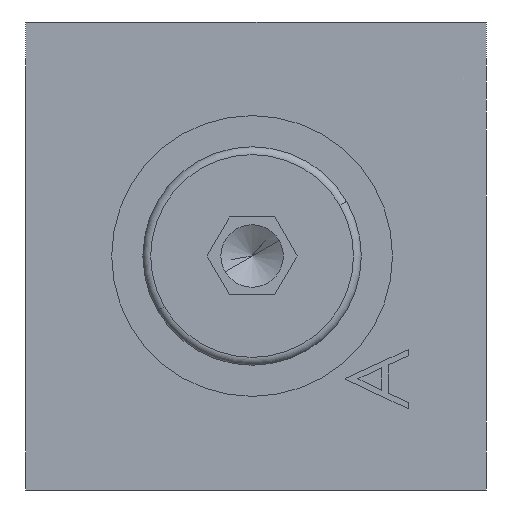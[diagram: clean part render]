
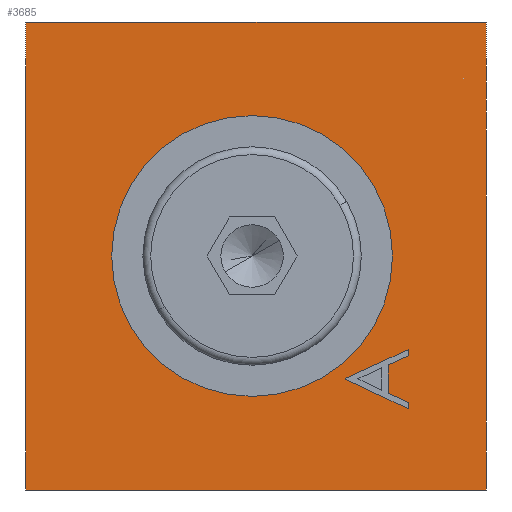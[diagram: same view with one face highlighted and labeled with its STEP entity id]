
A CAD part, left-side view. The second image highlights one B-rep face of the part: STEP entity #3685.
In plain terms, the highlighted planar face has unit normal (-1, 0, 0).
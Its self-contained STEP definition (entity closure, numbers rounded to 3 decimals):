
#46 = VERTEX_POINT ( 'NONE', #437 ) ;
#53 = EDGE_CURVE ( 'NONE', #5109, #1544, #978, .T. ) ;
#206 = DIRECTION ( 'NONE',  ( -1., 0., 0. ) ) ;
#244 = CARTESIAN_POINT ( 'NONE',  ( 0., -5.75, -7.897 ) ) ;
#283 = DIRECTION ( 'NONE',  ( 0., 0., 1. ) ) ;
#369 = VERTEX_POINT ( 'NONE', #1840 ) ;
#385 = ORIENTED_EDGE ( 'NONE', *, *, #2548, .T. ) ;
#414 = ORIENTED_EDGE ( 'NONE', *, *, #2694, .F. ) ;
#437 = CARTESIAN_POINT ( 'NONE',  ( 0., -9.75, -6. ) ) ;
#444 = LINE ( 'NONE', #3615, #4010 ) ;
#480 = ORIENTED_EDGE ( 'NONE', *, *, #3254, .T. ) ;
#563 = VERTEX_POINT ( 'NONE', #4926 ) ;
#611 = FACE_BOUND ( 'NONE', #3850, .T. ) ;
#666 = LINE ( 'NONE', #2069, #4230 ) ;
#673 = DIRECTION ( 'NONE',  ( 0., 0., -1. ) ) ;
#707 = ORIENTED_EDGE ( 'NONE', *, *, #53, .F. ) ;
#772 = ORIENTED_EDGE ( 'NONE', *, *, #2531, .T. ) ;
#836 = DIRECTION ( 'NONE',  ( 0., -1., 0. ) ) ;
#844 = CARTESIAN_POINT ( 'NONE',  ( 0., -8.468, -6.982 ) ) ;
#880 = DIRECTION ( 'NONE',  ( 0., 0.904, 0.429 ) ) ;
#893 = VECTOR ( 'NONE', #5390, 1000. ) ;
#978 = LINE ( 'NONE', #4894, #5817 ) ;
#990 = CARTESIAN_POINT ( 'NONE',  ( 0., 0.25, -9. ) ) ;
#1000 = DIRECTION ( 'NONE',  ( 0., 0., -1. ) ) ;
#1012 = CARTESIAN_POINT ( 'NONE',  ( 0., 0.25, 0. ) ) ;
#1028 = CIRCLE ( 'NONE', #1863, 9. ) ;
#1089 = CARTESIAN_POINT ( 'NONE',  ( 0., 0.25, 0. ) ) ;
#1157 = AXIS2_PLACEMENT_3D ( 'NONE', #1089, #206, #283 ) ;
#1174 = ORIENTED_EDGE ( 'NONE', *, *, #4949, .F. ) ;
#1223 = EDGE_CURVE ( 'NONE', #4386, #369, #1524, .T. ) ;
#1245 = VERTEX_POINT ( 'NONE', #4153 ) ;
#1325 = CARTESIAN_POINT ( 'NONE',  ( 0., -14.75, -15. ) ) ;
#1339 = VECTOR ( 'NONE', #4731, 1000. ) ;
#1379 = VECTOR ( 'NONE', #880, 1000. ) ;
#1490 = DIRECTION ( 'NONE',  ( 0., 0., 1. ) ) ;
#1505 = CARTESIAN_POINT ( 'NONE',  ( 0., 14.75, -15. ) ) ;
#1524 = LINE ( 'NONE', #4238, #1379 ) ;
#1544 = VERTEX_POINT ( 'NONE', #5868 ) ;
#1552 = CARTESIAN_POINT ( 'NONE',  ( 0., -9.75, -9.403 ) ) ;
#1614 = ORIENTED_EDGE ( 'NONE', *, *, #4039, .F. ) ;
#1798 = CARTESIAN_POINT ( 'NONE',  ( 0., -14.75, -15. ) ) ;
#1823 = ORIENTED_EDGE ( 'NONE', *, *, #5337, .T. ) ;
#1840 = CARTESIAN_POINT ( 'NONE',  ( 0., -5.75, -7.897 ) ) ;
#1863 = AXIS2_PLACEMENT_3D ( 'NONE', #1012, #4276, #1490 ) ;
#1879 = DIRECTION ( 'NONE',  ( 0., 0., 1. ) ) ;
#1916 = LINE ( 'NONE', #1798, #3032 ) ;
#1955 = PLANE ( 'NONE',  #5667 ) ;
#1975 = DIRECTION ( 'NONE',  ( 0., 0., 1. ) ) ;
#2069 = CARTESIAN_POINT ( 'NONE',  ( 0., -8.468, -6.982 ) ) ;
#2128 = CARTESIAN_POINT ( 'NONE',  ( 0., -9.75, -6. ) ) ;
#2169 = CARTESIAN_POINT ( 'NONE',  ( 0., -8.468, -8.795 ) ) ;
#2208 = LINE ( 'NONE', #4734, #3297 ) ;
#2258 = CARTESIAN_POINT ( 'NONE',  ( 0., -9.75, -9.795 ) ) ;
#2299 = VECTOR ( 'NONE', #4814, 1000. ) ;
#2531 = EDGE_CURVE ( 'NONE', #4613, #46, #2610, .T. ) ;
#2548 = EDGE_CURVE ( 'NONE', #3046, #3852, #2741, .T. ) ;
#2610 = LINE ( 'NONE', #3040, #1339 ) ;
#2624 = EDGE_CURVE ( 'NONE', #369, #4613, #2888, .T. ) ;
#2626 = DIRECTION ( 'NONE',  ( 0., -0.903, -0.429 ) ) ;
#2694 = EDGE_CURVE ( 'NONE', #3936, #4636, #5662, .T. ) ;
#2741 = LINE ( 'NONE', #4453, #4923 ) ;
#2864 = CARTESIAN_POINT ( 'NONE',  ( 0., -14.75, 15. ) ) ;
#2888 = LINE ( 'NONE', #244, #3532 ) ;
#2910 = DIRECTION ( 'NONE',  ( 0., 0., 1. ) ) ;
#2981 = CARTESIAN_POINT ( 'NONE',  ( 0., -9.75, -6.39 ) ) ;
#3032 = VECTOR ( 'NONE', #5550, 1000. ) ;
#3040 = CARTESIAN_POINT ( 'NONE',  ( 0., -5.75, -7.846 ) ) ;
#3046 = VERTEX_POINT ( 'NONE', #2981 ) ;
#3254 = EDGE_CURVE ( 'NONE', #1245, #4386, #4763, .T. ) ;
#3297 = VECTOR ( 'NONE', #1000, 1000. ) ;
#3532 = VECTOR ( 'NONE', #2910, 1000. ) ;
#3615 = CARTESIAN_POINT ( 'NONE',  ( 0., -14.75, 15. ) ) ;
#3651 = LINE ( 'NONE', #2169, #6010 ) ;
#3685 = ADVANCED_FACE ( 'NONE', ( #4174, #5434, #611 ), #1955, .T. ) ;
#3718 = EDGE_LOOP ( 'NONE', ( #414, #1614 ) ) ;
#3850 = EDGE_LOOP ( 'NONE', ( #4740, #5485, #772, #1823, #385, #5032, #4430, #480 ) ) ;
#3852 = VERTEX_POINT ( 'NONE', #844 ) ;
#3936 = VERTEX_POINT ( 'NONE', #5123 ) ;
#4010 = VECTOR ( 'NONE', #836, 1000. ) ;
#4039 = EDGE_CURVE ( 'NONE', #4636, #3936, #1028, .T. ) ;
#4153 = CARTESIAN_POINT ( 'NONE',  ( 0., -9.75, -9.403 ) ) ;
#4174 = FACE_OUTER_BOUND ( 'NONE', #4309, .T. ) ;
#4191 = EDGE_CURVE ( 'NONE', #3852, #563, #666, .T. ) ;
#4230 = VECTOR ( 'NONE', #673, 1000. ) ;
#4238 = CARTESIAN_POINT ( 'NONE',  ( 0., -9.75, -9.795 ) ) ;
#4276 = DIRECTION ( 'NONE',  ( -1., 0., 0. ) ) ;
#4309 = EDGE_LOOP ( 'NONE', ( #5690, #4906, #1174, #707 ) ) ;
#4386 = VERTEX_POINT ( 'NONE', #2258 ) ;
#4430 = ORIENTED_EDGE ( 'NONE', *, *, #4809, .T. ) ;
#4453 = CARTESIAN_POINT ( 'NONE',  ( 0., -9.75, -6.39 ) ) ;
#4583 = VERTEX_POINT ( 'NONE', #2864 ) ;
#4613 = VERTEX_POINT ( 'NONE', #5187 ) ;
#4617 = LINE ( 'NONE', #2128, #893 ) ;
#4636 = VERTEX_POINT ( 'NONE', #990 ) ;
#4731 = DIRECTION ( 'NONE',  ( 0., -0.908, 0.419 ) ) ;
#4734 = CARTESIAN_POINT ( 'NONE',  ( 0., -14.75, 15. ) ) ;
#4740 = ORIENTED_EDGE ( 'NONE', *, *, #1223, .T. ) ;
#4763 = LINE ( 'NONE', #1552, #2299 ) ;
#4769 = DIRECTION ( 'NONE',  ( -1., 0., 0. ) ) ;
#4809 = EDGE_CURVE ( 'NONE', #563, #1245, #3651, .T. ) ;
#4814 = DIRECTION ( 'NONE',  ( 0., 0., -1. ) ) ;
#4894 = CARTESIAN_POINT ( 'NONE',  ( 0., 14.75, 15. ) ) ;
#4906 = ORIENTED_EDGE ( 'NONE', *, *, #5615, .F. ) ;
#4923 = VECTOR ( 'NONE', #5382, 1000. ) ;
#4926 = CARTESIAN_POINT ( 'NONE',  ( 0., -8.468, -8.795 ) ) ;
#4949 = EDGE_CURVE ( 'NONE', #1544, #4583, #444, .T. ) ;
#5032 = ORIENTED_EDGE ( 'NONE', *, *, #4191, .T. ) ;
#5109 = VERTEX_POINT ( 'NONE', #5208 ) ;
#5123 = CARTESIAN_POINT ( 'NONE',  ( 0., 0.25, 9. ) ) ;
#5187 = CARTESIAN_POINT ( 'NONE',  ( 0., -5.75, -7.846 ) ) ;
#5208 = CARTESIAN_POINT ( 'NONE',  ( 0., 14.75, -15. ) ) ;
#5337 = EDGE_CURVE ( 'NONE', #46, #3046, #4617, .T. ) ;
#5382 = DIRECTION ( 'NONE',  ( 0., 0.908, -0.419 ) ) ;
#5390 = DIRECTION ( 'NONE',  ( 0., 0., -1. ) ) ;
#5434 = FACE_BOUND ( 'NONE', #3718, .T. ) ;
#5485 = ORIENTED_EDGE ( 'NONE', *, *, #2624, .T. ) ;
#5550 = DIRECTION ( 'NONE',  ( 0., 1., 0. ) ) ;
#5615 = EDGE_CURVE ( 'NONE', #4583, #5991, #2208, .T. ) ;
#5662 = CIRCLE ( 'NONE', #1157, 9. ) ;
#5667 = AXIS2_PLACEMENT_3D ( 'NONE', #1505, #4769, #1975 ) ;
#5690 = ORIENTED_EDGE ( 'NONE', *, *, #6016, .F. ) ;
#5817 = VECTOR ( 'NONE', #1879, 1000. ) ;
#5868 = CARTESIAN_POINT ( 'NONE',  ( 0., 14.75, 15. ) ) ;
#5991 = VERTEX_POINT ( 'NONE', #1325 ) ;
#6010 = VECTOR ( 'NONE', #2626, 1000. ) ;
#6016 = EDGE_CURVE ( 'NONE', #5991, #5109, #1916, .T. ) ;
